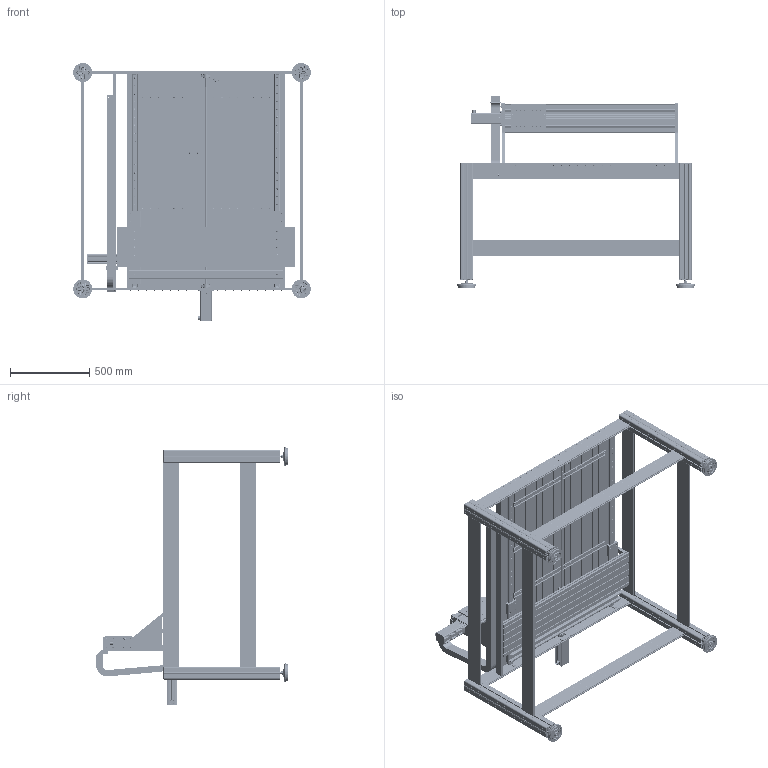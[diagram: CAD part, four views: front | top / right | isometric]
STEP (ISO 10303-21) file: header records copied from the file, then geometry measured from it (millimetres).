
FILE_DESCRIPTION (( 'STEP AP203' ), '1' );
FILE_NAME ('STEP_-_X-Y Flachbetteinheit FB2 - ArtNr 246203 2067M - ArtNr 248500 0067.step', '2015-04-22T15:12:34', ( '' ), ( '' ), 'SwSTEP 2.0', 'SolidWorks 2014', '' );
FILE_SCHEMA (( 'CONFIG_CONTROL_DESIGN' ));
Products named in the file (6): TE0060 - Schlittenplatte Vorschub 175mm; TE0179 - F黨rungsschlitten_F乭rungsschlitten f乺 KG-Mutter Typ25; X-Y-Achse f黵 Verfagrweg 780; Untergestell 1000x1350; Untergestell Baugruppe_1000x1350; STEP_-_X-Y Flachbetteinheit FB2 - ArtNr 246203 2067M - ArtNr 248500 0067
Assembly tree (6 placements, depth 3):
  STEP_-_X-Y Flachbetteinheit FB2 - ArtNr 246203 2067M - ArtNr 248500 0067
    TE0060 - Schlittenplatte Vorschub 175mm
    TE0179 - F黨rungsschlitten_F乭rungsschlitten f乺 KG-Mutter Typ25  x2
    X-Y-Achse f黵 Verfagrweg 780
    Untergestell Baugruppe_1000x1350
      Untergestell 1000x1350
Bounding box: 1499.73 x 1209.4 x 1628.16 mm (x, y, z)
Volume: 44442766.1 mm3; surface area: 30086224.8 mm2
Topology: 457 solids, 458 shells, 15692 faces, 40652 edges, 26266 vertices
Faces by surface type: plane 9052, cylinder 4401, cone 1025, torus 643, bspline 426, sphere 145
Full cylindrical faces by diameter (mm): 1.5 x6, 2 x3, 2.33 x2, 2.4 x2, 2.5 x28, 3 x16, 3.2 x10, 4 x21, 4.2 x10, 4.5 x16, 4.6 x2, 4.8 x4, 5 x64, 5.2 x60, 5.5 x12, 6 x231, 6.1 x12, 6.35 x2, 6.4 x11, 6.5 x94, 6.6 x90, 7 x180, 7.2 x2, 7.5 x30, 8 x15, 8.5 x16, 9 x1, 9.2 x2, 9.8 x2, 10 x191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
Entity records: 518525 total; most frequent: CARTESIAN_POINT 162117, ORIENTED_EDGE 71446, DIRECTION 70295, EDGE_CURVE 35723, VERTEX_POINT 24754, AXIS2_PLACEMENT_3D 24654, VECTOR 20987, LINE 20987
